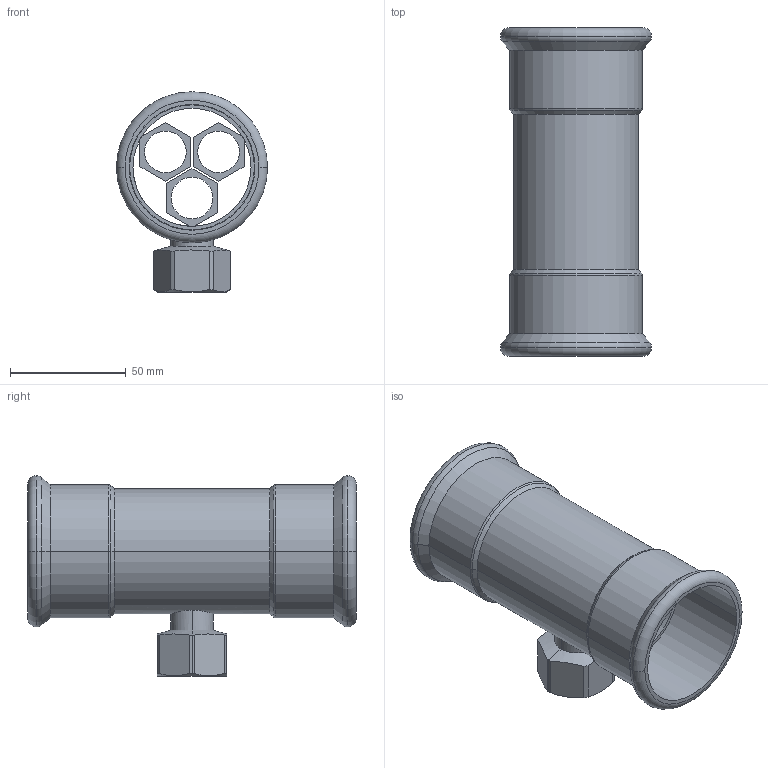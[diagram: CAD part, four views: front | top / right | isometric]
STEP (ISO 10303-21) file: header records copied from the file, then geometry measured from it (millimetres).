
FILE_DESCRIPTION(('OneSpaceDesigner STEP Export'),'2;1');
FILE_NAME('R2718 54xRp3-4x54.stp','2010-06-10T10:10:29',(''),(''),'OneSpace Designer STEP processor for AP214 (Solid Model)','OneSpace Modeling 15.00A 14-Mar-2007 (C) CoCreate Software GmbH','');
FILE_SCHEMA(('AUTOMOTIVE_DESIGN { 1 0 10303 214 1 1 1 1 }'));
Length unit declared in the file: millimetre
Products named in the file (2): R2718_54xRp3-4x54
Assembly tree (1 placements, depth 2):
  R2718_54xRp3-4x54
    R2718_54xRp3-4x54
Bounding box: 65.3 x 142 x 86.65 mm (x, y, z)
Volume: 55546.9 mm3; surface area: 60751.8 mm2
Topology: 1 solids, 1 shells, 190 faces, 481 edges, 308 vertices
Faces by surface type: plane 94, cylinder 64, cone 20, torus 12
Entity records: 6735 total; most frequent: CARTESIAN_POINT 2548, ORIENTED_EDGE 962, DIRECTION 717, EDGE_CURVE 481, VERTEX_POINT 308, VECTOR 287, LINE 287, EDGE_LOOP 225
